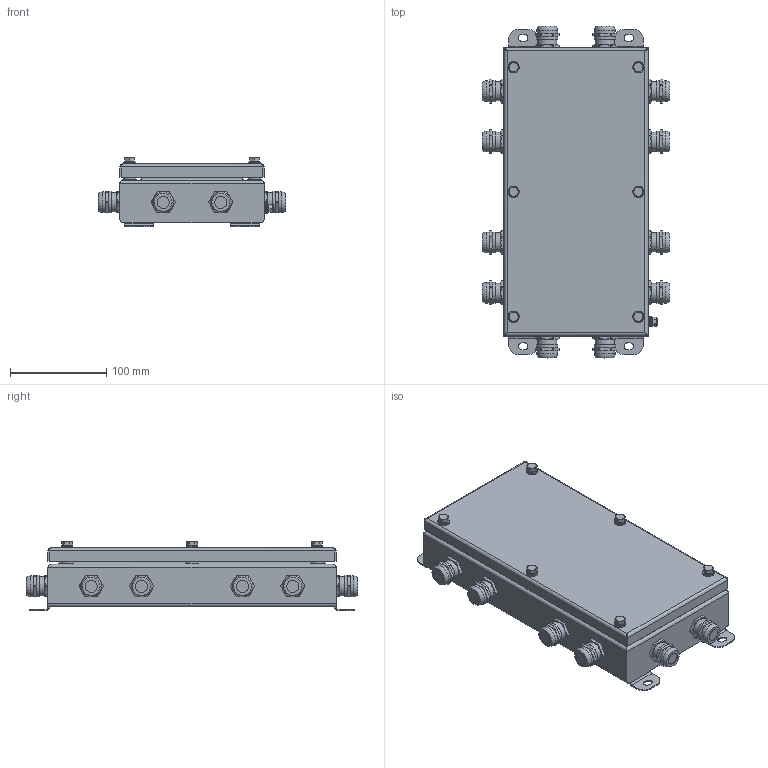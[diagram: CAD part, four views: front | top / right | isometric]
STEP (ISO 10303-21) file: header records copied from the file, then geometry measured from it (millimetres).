
FILE_DESCRIPTION(('STEP AP203'), '1');
FILE_NAME('Êîðîáêà 1530 IP66', '', ('UNSPECIFIED'), ('UNSPECIFIED'), 'ASCON STEP Converter 1.6', 'ASCON Math Kernel', '');
FILE_SCHEMA(('CONFIG_CONTROL_DESIGN'));
Length unit declared in the file: millimetre
Bounding box: 195.67 x 345.67 x 72.5 mm (x, y, z)
Volume: 2656801.2 mm3; surface area: 222307.4 mm2
Topology: 2 solids, 2 shells, 841 faces, 2090 edges, 1330 vertices
Faces by surface type: plane 402, cylinder 303, cone 108, torus 20, bspline 8
Full cylindrical faces by diameter (mm): 3.7 x1, 4.134 x1, 5 x1, 5.5 x2, 6 x6, 6.5 x1, 6.6 x6, 8.5 x6, 10 x2, 12 x6, 12.6 x12, 13 x6, 14 x6, 20 x12, 21.6 x24
Entity records: 46649 total; most frequent: CARTESIAN_POINT 7918, DIRECTION 3956, ORIENTED_EDGE 3884, PROPERTY_DEFINITION 2832, PROPERTY_DEFINITION_REPRESENTATION 2832, REPRESENTATION 2832, EDGE_CURVE 1942, GENERAL_PROPERTY_ASSOCIATION 1644
